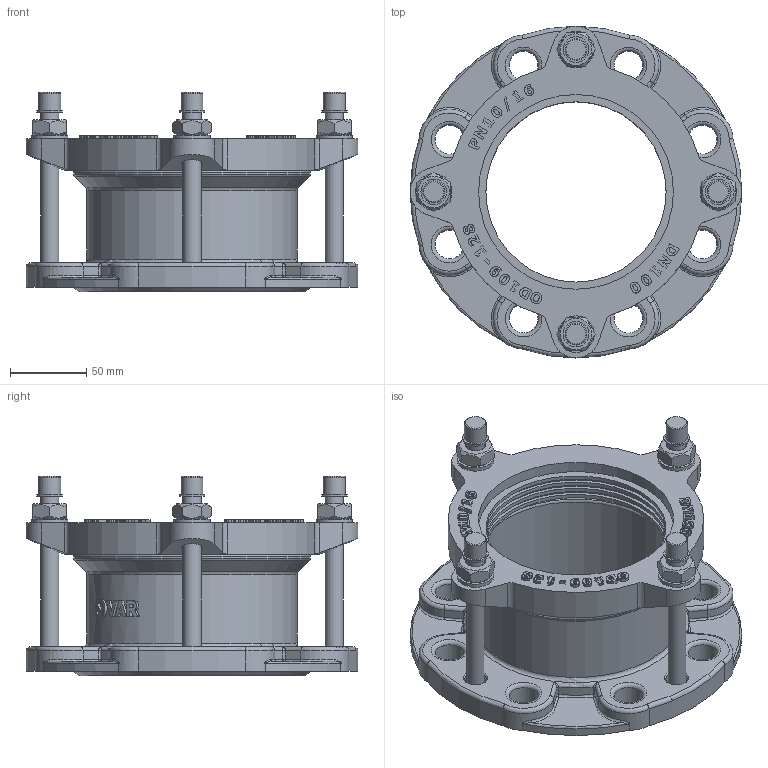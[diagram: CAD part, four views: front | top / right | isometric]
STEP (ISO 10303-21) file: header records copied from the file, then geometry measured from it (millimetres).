
FILE_DESCRIPTION(('STEP AP203'), '1');
FILE_NAME('Ôëàíöåâûé àäàïòåð', '', ('UNSPECIFIED'), ('UNSPECIFIED'), 'C3D Converter', 'C3D Toolkit', '');
FILE_SCHEMA(('CONFIG_CONTROL_DESIGN'));
Length unit declared in the file: millimetre
Assembly tree (19 placements, depth 2):
  (unnamed)
    (unnamed)
    (unnamed)  x4
    (unnamed)  x4
    (unnamed)  x4
    (unnamed)  x4
    (unnamed)
    (unnamed)
Bounding box: 218 x 218 x 131.2 mm (x, y, z)
Volume: 792101.4 mm3; surface area: 256496.7 mm2
Topology: 19 solids, 19 shells, 1025 faces, 2572 edges, 1598 vertices
Faces by surface type: extrusion 336, plane 328, cylinder 202, torus 71, cone 32, bspline 32, sphere 24
Full cylindrical faces by diameter (mm): 12 x12, 12.253 x1, 13 x4, 14 x8, 14.4 x4, 16.8 x4, 19 x8, 24 x4, 118.5 x5, 123.25 x3, 128 x2, 133 x1, 138 x1, 140 x1, 155.5 x1, 158 x2
Entity records: 39670 total; most frequent: CARTESIAN_POINT 14804, ORIENTED_EDGE 4414, DIRECTION 3301, EDGE_CURVE 2207, VERTEX_POINT 1442, VECTOR 1281, B_SPLINE_CURVE_WITH_KNOTS 1117, EDGE_LOOP 1079
